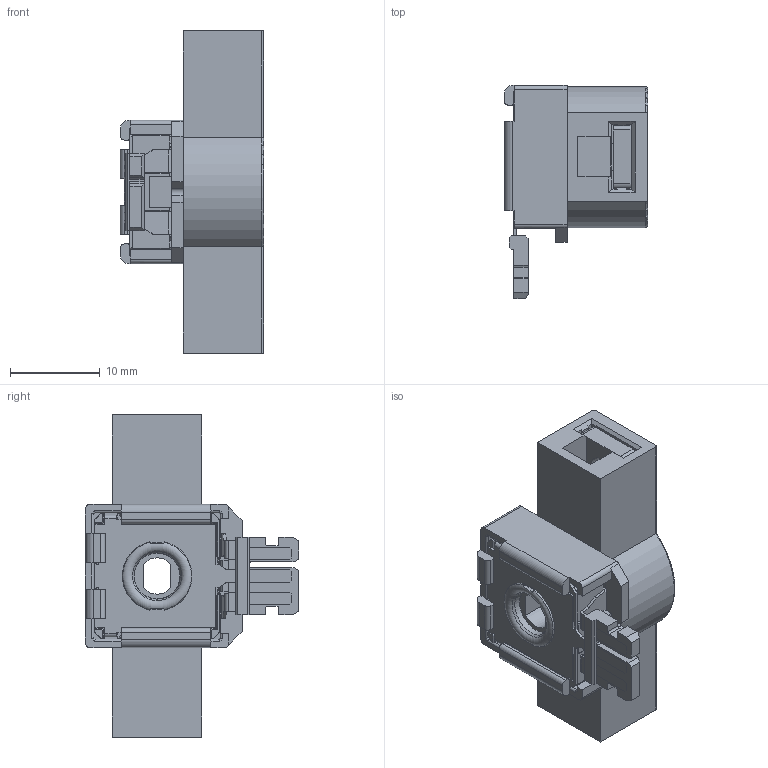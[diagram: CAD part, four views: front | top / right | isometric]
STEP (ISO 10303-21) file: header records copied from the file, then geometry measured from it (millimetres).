
FILE_DESCRIPTION(/* description */ (''),/* implementation_level */ '2;1');
FILE_NAME(/* name */ 'C:\Users\CEM\Desktop\ENVIAR\TRANSICION 3D CATALOGOS\CSF14NHP SI.stp',/* time_stamp */ '2025-11-19T16:51:27+01:00',/* author */ ('CEM'),/* organization */ (''),/* preprocessor_version */ 'ST-DEVELOPER v16.13',/* originating_system */ 'Autodesk Inventor 2018',/* authorisation */ '');
FILE_SCHEMA (('AUTOMOTIVE_DESIGN { 1 0 10303 214 3 1 1 }'));
Length unit declared in the file: millimetre
Products named in the file (1): CSF14NHP SI 
Bounding box: 16 x 23.8 x 36 mm (x, y, z)
Volume: 3461.3 mm3; surface area: 5171.3 mm2
Topology: 1 solids, 3 shells, 955 faces, 2747 edges, 1765 vertices
Faces by surface type: plane 729, cylinder 199, torus 11, cone 10, bspline 6
Full cylindrical faces by diameter (mm): 1 x3, 3.242 x2, 4.35 x2, 4.5 x1, 5.5 x1, 5.65 x1, 5.969 x1, 6 x1, 6.15 x1, 6.87 x1, 9.5 x1, 13 x1, 14 x1
Entity records: 31984 total; most frequent: CARTESIAN_POINT 5778, ORIENTED_EDGE 5426, DIRECTION 5021, EDGE_CURVE 2709, LINE 2225, VECTOR 2225, VERTEX_POINT 1753, AXIS2_PLACEMENT_3D 1398
